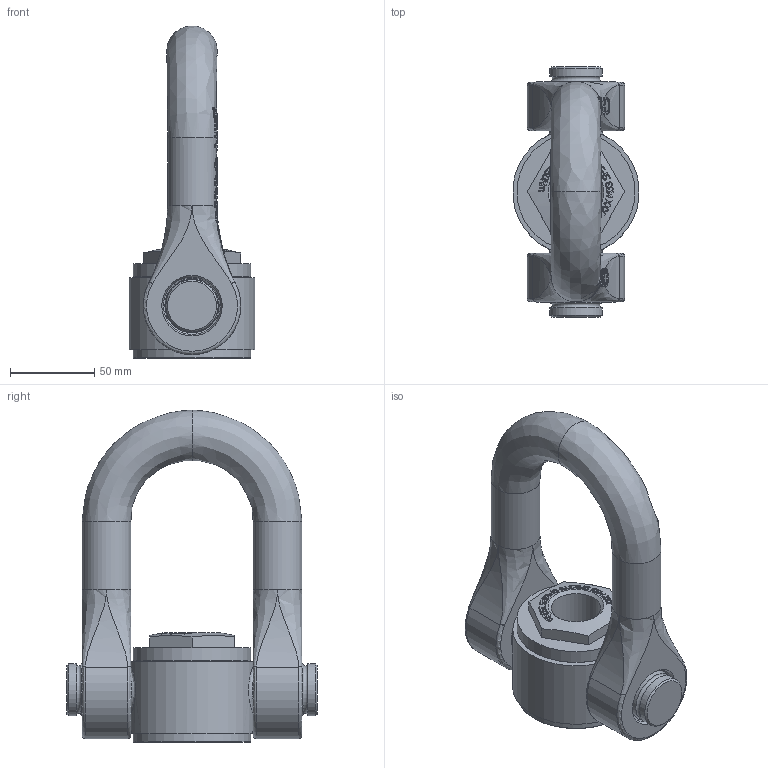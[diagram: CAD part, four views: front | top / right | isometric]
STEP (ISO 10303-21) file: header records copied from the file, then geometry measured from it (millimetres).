
FILE_DESCRIPTION(/* description */ (''),/* implementation_level */ '2;1');
FILE_NAME(/* name */ 'W:\CODIPRO\DOCUMENTS\Plans A NE PAS DIFFUSER !!!\Inventor\Standard Inventor\Produit Fini Inventor\SS_FE_DSS\Fichiers 3D\SS FE DSS M33.stp',/* time_stamp */ '2017-10-06T14:41:44+02:00',/* author */ ('rklenes'),/* organization */ (''),/* preprocessor_version */ 'ST-DEVELOPER v16.5',/* originating_system */ 'Autodesk Inventor 2017',/* authorisation */ '');
FILE_SCHEMA (('AUTOMOTIVE_DESIGN { 1 0 10303 214 3 1 1 }'));
Length unit declared in the file: millimetre
Products named in the file (5): SS FE DSS M33; DSM_N3; DSM_N3X51; DSE_M45A; SS_FE_DSA_M33
Assembly tree (4 placements, depth 2):
  SS FE DSS M33
    DSM_N3
    DSM_N3X51
    DSE_M45A
    SS_FE_DSA_M33
Bounding box: 74.72 x 148.5 x 197 mm (x, y, z)
Volume: 591673.9 mm3; surface area: 119055.9 mm2
Topology: 4 solids, 4 shells, 880 faces, 2475 edges, 1646 vertices
Faces by surface type: plane 379, bspline 375, cylinder 68, sphere 23, cone 22, torus 13
Full cylindrical faces by diameter (mm): 29 x2, 29.211 x1, 31 x4, 32.25 x2, 45 x3, 45.2 x1, 50.7 x2, 51 x3, 70 x2
Entity records: 35652 total; most frequent: CARTESIAN_POINT 14964, ORIENTED_EDGE 4832, DIRECTION 3350, EDGE_CURVE 2416, VERTEX_POINT 1636, AXIS2_PLACEMENT_3D 1261, EDGE_LOOP 982, FACE_OUTER_BOUND 880
